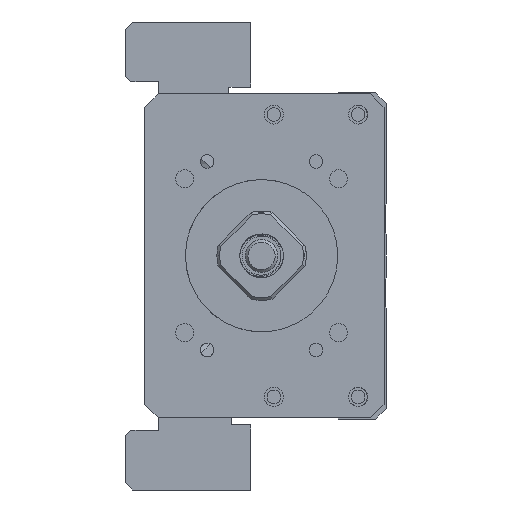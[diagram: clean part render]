
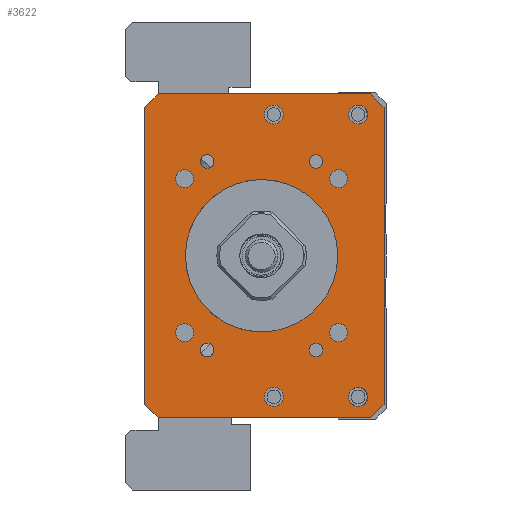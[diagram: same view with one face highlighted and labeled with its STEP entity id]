
A CAD part, left-side view. The second image highlights one B-rep face of the part: STEP entity #3622.
In plain terms, the highlighted planar face has unit normal (-1, 0, 0).
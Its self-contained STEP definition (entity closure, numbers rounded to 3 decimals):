
#1206=LINE('',#18658,#2119);
#1208=LINE('',#18682,#2121);
#1209=LINE('',#18684,#2122);
#1210=LINE('',#18686,#2123);
#1211=LINE('',#18688,#2124);
#1212=LINE('',#18690,#2125);
#1213=LINE('',#18692,#2126);
#1214=LINE('',#18694,#2127);
#2119=VECTOR('',#14775,1.);
#2121=VECTOR('',#14799,1.);
#2122=VECTOR('',#14800,1.);
#2123=VECTOR('',#14801,1.);
#2124=VECTOR('',#14802,1.);
#2125=VECTOR('',#14803,1.);
#2126=VECTOR('',#14804,1.);
#2127=VECTOR('',#14805,1.);
#2593=PLANE('',#12099);
#3622=ADVANCED_FACE('',(#4325,#4326,#4327,#4328,#4329,#4330,#4331,#4332,
#4333,#4334,#4335,#4336,#4337,#4338),#2593,.F.);
#4325=FACE_BOUND('',#5162,.T.);
#4326=FACE_BOUND('',#5163,.T.);
#4327=FACE_BOUND('',#5164,.T.);
#4328=FACE_BOUND('',#5165,.T.);
#4329=FACE_BOUND('',#5166,.T.);
#4330=FACE_BOUND('',#5167,.T.);
#4331=FACE_BOUND('',#5168,.T.);
#4332=FACE_BOUND('',#5169,.T.);
#4333=FACE_BOUND('',#5170,.T.);
#4334=FACE_BOUND('',#5171,.T.);
#4335=FACE_BOUND('',#5172,.T.);
#4336=FACE_BOUND('',#5173,.T.);
#4337=FACE_BOUND('',#5174,.T.);
#4338=FACE_BOUND('',#5175,.T.);
#5162=EDGE_LOOP('',(#7640));
#5163=EDGE_LOOP('',(#7641));
#5164=EDGE_LOOP('',(#7642));
#5165=EDGE_LOOP('',(#7643));
#5166=EDGE_LOOP('',(#7644));
#5167=EDGE_LOOP('',(#7645));
#5168=EDGE_LOOP('',(#7646));
#5169=EDGE_LOOP('',(#7647));
#5170=EDGE_LOOP('',(#7648));
#5171=EDGE_LOOP('',(#7649,#7650,#7651,#7652,#7653,#7654,#7655,#7656));
#5172=EDGE_LOOP('',(#7657));
#5173=EDGE_LOOP('',(#7658));
#5174=EDGE_LOOP('',(#7659));
#5175=EDGE_LOOP('',(#7660));
#7640=ORIENTED_EDGE('',*,*,#10529,.F.);
#7641=ORIENTED_EDGE('',*,*,#10530,.F.);
#7642=ORIENTED_EDGE('',*,*,#10531,.F.);
#7643=ORIENTED_EDGE('',*,*,#10532,.F.);
#7644=ORIENTED_EDGE('',*,*,#10533,.F.);
#7645=ORIENTED_EDGE('',*,*,#10534,.T.);
#7646=ORIENTED_EDGE('',*,*,#10535,.F.);
#7647=ORIENTED_EDGE('',*,*,#10536,.F.);
#7648=ORIENTED_EDGE('',*,*,#10537,.F.);
#7649=ORIENTED_EDGE('',*,*,#10526,.T.);
#7650=ORIENTED_EDGE('',*,*,#10538,.T.);
#7651=ORIENTED_EDGE('',*,*,#10539,.F.);
#7652=ORIENTED_EDGE('',*,*,#10540,.T.);
#7653=ORIENTED_EDGE('',*,*,#10541,.F.);
#7654=ORIENTED_EDGE('',*,*,#10542,.T.);
#7655=ORIENTED_EDGE('',*,*,#10543,.T.);
#7656=ORIENTED_EDGE('',*,*,#10544,.T.);
#7657=ORIENTED_EDGE('',*,*,#10545,.F.);
#7658=ORIENTED_EDGE('',*,*,#10546,.F.);
#7659=ORIENTED_EDGE('',*,*,#10547,.F.);
#7660=ORIENTED_EDGE('',*,*,#10506,.F.);
#9138=VERTEX_POINT('',#18597);
#9158=VERTEX_POINT('',#18657);
#9159=VERTEX_POINT('',#18659);
#9161=VERTEX_POINT('',#18665);
#9162=VERTEX_POINT('',#18667);
#9163=VERTEX_POINT('',#18669);
#9164=VERTEX_POINT('',#18671);
#9165=VERTEX_POINT('',#18673);
#9166=VERTEX_POINT('',#18675);
#9167=VERTEX_POINT('',#18677);
#9168=VERTEX_POINT('',#18679);
#9169=VERTEX_POINT('',#18681);
#9170=VERTEX_POINT('',#18683);
#9171=VERTEX_POINT('',#18685);
#9172=VERTEX_POINT('',#18687);
#9173=VERTEX_POINT('',#18689);
#9174=VERTEX_POINT('',#18691);
#9175=VERTEX_POINT('',#18693);
#9176=VERTEX_POINT('',#18696);
#9177=VERTEX_POINT('',#18698);
#9178=VERTEX_POINT('',#18700);
#10506=EDGE_CURVE('',#9138,#9138,#11147,.T.);
#10526=EDGE_CURVE('',#9159,#9158,#1206,.T.);
#10529=EDGE_CURVE('',#9161,#9161,#11156,.T.);
#10530=EDGE_CURVE('',#9162,#9162,#11157,.T.);
#10531=EDGE_CURVE('',#9163,#9163,#11158,.T.);
#10532=EDGE_CURVE('',#9164,#9164,#11159,.T.);
#10533=EDGE_CURVE('',#9165,#9165,#11160,.T.);
#10534=EDGE_CURVE('',#9166,#9166,#11161,.T.);
#10535=EDGE_CURVE('',#9167,#9167,#11162,.T.);
#10536=EDGE_CURVE('',#9168,#9168,#11163,.T.);
#10537=EDGE_CURVE('',#9169,#9169,#11164,.T.);
#10538=EDGE_CURVE('',#9158,#9170,#1208,.T.);
#10539=EDGE_CURVE('',#9171,#9170,#1209,.T.);
#10540=EDGE_CURVE('',#9171,#9172,#1210,.T.);
#10541=EDGE_CURVE('',#9173,#9172,#1211,.T.);
#10542=EDGE_CURVE('',#9173,#9174,#1212,.T.);
#10543=EDGE_CURVE('',#9174,#9175,#1213,.T.);
#10544=EDGE_CURVE('',#9175,#9159,#1214,.T.);
#10545=EDGE_CURVE('',#9176,#9176,#11165,.T.);
#10546=EDGE_CURVE('',#9177,#9177,#11166,.T.);
#10547=EDGE_CURVE('',#9178,#9178,#11167,.T.);
#11147=CIRCLE('',#12076,14.);
#11156=CIRCLE('',#12087,1.65);
#11157=CIRCLE('',#12088,1.65);
#11158=CIRCLE('',#12089,1.65);
#11159=CIRCLE('',#12090,1.65);
#11160=CIRCLE('',#12091,1.25);
#11161=CIRCLE('',#12092,1.75);
#11162=CIRCLE('',#12093,1.25);
#11163=CIRCLE('',#12094,1.75);
#11164=CIRCLE('',#12095,1.25);
#11165=CIRCLE('',#12096,1.75);
#11166=CIRCLE('',#12097,1.75);
#11167=CIRCLE('',#12098,1.25);
#12076=AXIS2_PLACEMENT_3D('',#18596,#14749,#14750);
#12087=AXIS2_PLACEMENT_3D('',#18664,#14781,#14782);
#12088=AXIS2_PLACEMENT_3D('',#18666,#14783,#14784);
#12089=AXIS2_PLACEMENT_3D('',#18668,#14785,#14786);
#12090=AXIS2_PLACEMENT_3D('',#18670,#14787,#14788);
#12091=AXIS2_PLACEMENT_3D('',#18672,#14789,#14790);
#12092=AXIS2_PLACEMENT_3D('',#18674,#14791,#14792);
#12093=AXIS2_PLACEMENT_3D('',#18676,#14793,#14794);
#12094=AXIS2_PLACEMENT_3D('',#18678,#14795,#14796);
#12095=AXIS2_PLACEMENT_3D('',#18680,#14797,#14798);
#12096=AXIS2_PLACEMENT_3D('',#18695,#14806,#14807);
#12097=AXIS2_PLACEMENT_3D('',#18697,#14808,#14809);
#12098=AXIS2_PLACEMENT_3D('',#18699,#14810,#14811);
#12099=AXIS2_PLACEMENT_3D('',#18701,#14812,#14813);
#14749=DIRECTION('',(-1.,0.,0.));
#14750=DIRECTION('',(0.,1.,0.));
#14775=DIRECTION('',(0.,0.,-1.));
#14781=DIRECTION('',(-1.,0.,0.));
#14782=DIRECTION('',(0.,0.,1.));
#14783=DIRECTION('',(-1.,0.,0.));
#14784=DIRECTION('',(0.,0.,1.));
#14785=DIRECTION('',(-1.,0.,0.));
#14786=DIRECTION('',(0.,0.,1.));
#14787=DIRECTION('',(-1.,0.,0.));
#14788=DIRECTION('',(0.,0.,1.));
#14789=DIRECTION('',(-1.,0.,0.));
#14790=DIRECTION('',(0.,1.,0.));
#14791=DIRECTION('',(1.,0.,0.));
#14792=DIRECTION('',(0.,0.,1.));
#14793=DIRECTION('',(-1.,0.,0.));
#14794=DIRECTION('',(0.,1.,0.));
#14795=DIRECTION('',(-1.,0.,0.));
#14796=DIRECTION('',(0.,0.,1.));
#14797=DIRECTION('',(-1.,0.,0.));
#14798=DIRECTION('',(0.,1.,0.));
#14799=DIRECTION('',(0.,-0.707,-0.707));
#14800=DIRECTION('',(0.,1.,0.));
#14801=DIRECTION('',(0.,-0.707,0.707));
#14802=DIRECTION('',(0.,0.,-1.));
#14803=DIRECTION('',(0.,0.707,0.707));
#14804=DIRECTION('',(0.,1.,0.));
#14805=DIRECTION('',(0.,0.707,-0.707));
#14806=DIRECTION('',(-1.,0.,0.));
#14807=DIRECTION('',(0.,0.,1.));
#14808=DIRECTION('',(-1.,0.,0.));
#14809=DIRECTION('',(0.,0.,1.));
#14810=DIRECTION('',(-1.,0.,0.));
#14811=DIRECTION('',(0.,1.,0.));
#14812=DIRECTION('',(1.,0.,0.));
#14813=DIRECTION('',(0.,1.,0.));
#18596=CARTESIAN_POINT('',(-211.,0.,-400.));
#18597=CARTESIAN_POINT('',(-211.,14.,-400.));
#18657=CARTESIAN_POINT('',(-211.,21.499,-427.25));
#18658=CARTESIAN_POINT('',(-211.,21.499,-370.25));
#18659=CARTESIAN_POINT('',(-211.,21.499,-372.75));
#18664=CARTESIAN_POINT('',(-211.,14.142,-385.858));
#18665=CARTESIAN_POINT('',(-211.,14.142,-384.208));
#18666=CARTESIAN_POINT('',(-211.,-14.142,-385.858));
#18667=CARTESIAN_POINT('',(-211.,-14.142,-384.208));
#18668=CARTESIAN_POINT('',(-211.,14.142,-414.142));
#18669=CARTESIAN_POINT('',(-211.,14.142,-412.492));
#18670=CARTESIAN_POINT('',(-211.,-14.142,-414.142));
#18671=CARTESIAN_POINT('',(-211.,-14.142,-412.492));
#18672=CARTESIAN_POINT('',(-211.,-10.,-417.321));
#18673=CARTESIAN_POINT('',(-211.,-8.75,-417.321));
#18674=CARTESIAN_POINT('',(-211.,-2.25,-425.936));
#18675=CARTESIAN_POINT('',(-211.,-2.25,-424.186));
#18676=CARTESIAN_POINT('',(-211.,10.,-382.679));
#18677=CARTESIAN_POINT('',(-211.,11.25,-382.679));
#18678=CARTESIAN_POINT('',(-211.,-2.25,-374.064));
#18679=CARTESIAN_POINT('',(-211.,-2.25,-372.314));
#18680=CARTESIAN_POINT('',(-211.,10.,-417.321));
#18681=CARTESIAN_POINT('',(-211.,11.25,-417.321));
#18682=CARTESIAN_POINT('',(-211.,18.999,-429.75));
#18683=CARTESIAN_POINT('',(-211.,18.999,-429.75));
#18684=CARTESIAN_POINT('',(-211.,-22.501,-429.75));
#18685=CARTESIAN_POINT('',(-211.,-20.001,-429.75));
#18686=CARTESIAN_POINT('',(-211.,-22.501,-427.25));
#18687=CARTESIAN_POINT('',(-211.,-22.501,-427.25));
#18688=CARTESIAN_POINT('',(-211.,-22.501,-370.25));
#18689=CARTESIAN_POINT('',(-211.,-22.501,-372.75));
#18690=CARTESIAN_POINT('',(-211.,-22.501,-372.75));
#18691=CARTESIAN_POINT('',(-211.,-20.001,-370.25));
#18692=CARTESIAN_POINT('',(-211.,-22.501,-370.25));
#18693=CARTESIAN_POINT('',(-211.,18.999,-370.25));
#18694=CARTESIAN_POINT('',(-211.,18.999,-370.25));
#18695=CARTESIAN_POINT('',(-211.,-17.75,-374.064));
#18696=CARTESIAN_POINT('',(-211.,-17.75,-372.314));
#18697=CARTESIAN_POINT('',(-211.,-17.75,-425.936));
#18698=CARTESIAN_POINT('',(-211.,-17.75,-424.186));
#18699=CARTESIAN_POINT('',(-211.,-10.,-382.679));
#18700=CARTESIAN_POINT('',(-211.,-8.75,-382.679));
#18701=CARTESIAN_POINT('',(-211.,-22.501,-370.25));
